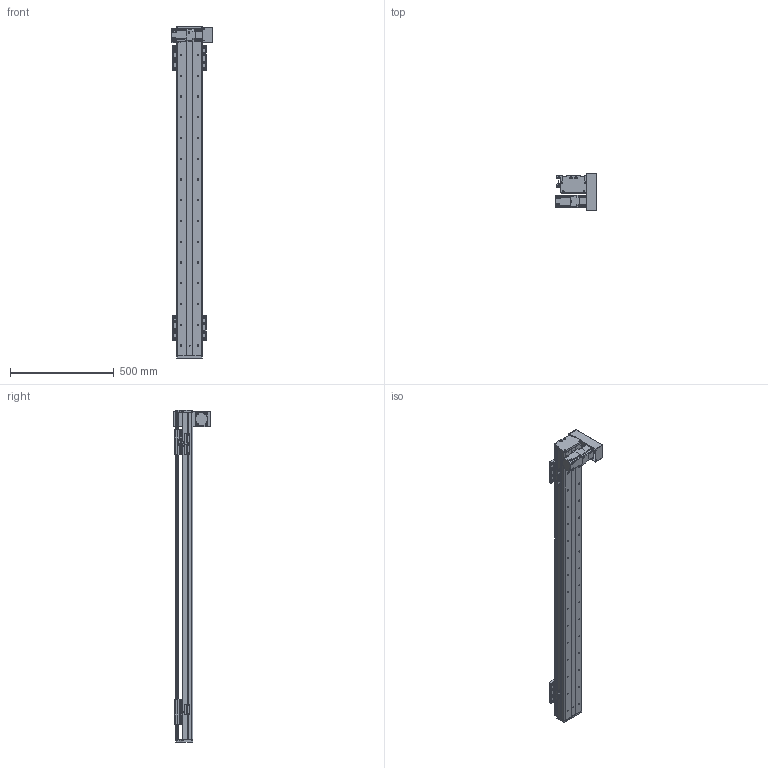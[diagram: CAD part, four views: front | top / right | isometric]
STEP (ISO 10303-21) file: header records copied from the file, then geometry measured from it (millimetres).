
FILE_DESCRIPTION(/* description */ (''),/* implementation_level */ '2;1');
FILE_NAME(/* name */ 'C:\Users\PC\Desktop\3D도면\STEP\새 폴더\DSB125-DR2G-W1300-L.stp',/* time_stamp */ '2018-06-21T14:59:46+09:00',/* author */ ('PC'),/* organization */ (''),/* preprocessor_version */ 'ST-DEVELOPER v16.5',/* originating_system */ 'Autodesk Inventor 2017',/* authorisation */ '');
FILE_SCHEMA (('AUTOMOTIVE_DESIGN { 1 0 10303 214 3 1 1 }'));
Length unit declared in the file: millimetre
Products named in the file (12): DSB125-DL2G-W1300-R_MIR; DSB125-BASE_MIR; DSB125-FRONT COVER_MIR; DSB125-REAR COVER_MIR; DSB125-UP COVER_MIR; hg-kr23__MIR; ab0601-p0401200402_MIR; 13-BELT COVER_MIR; DSR125-SENSOR DOG_MIR; pm-y65_step_MIR; SENSOR BRACKET(EE-SX674A)_MIR; DSB125-TABLE(MSB15S)_MIR
Assembly tree (16 placements, depth 2):
  DSB125-DL2G-W1300-R_MIR
    DSB125-BASE_MIR
    DSB125-FRONT COVER_MIR
    DSB125-REAR COVER_MIR
    DSB125-UP COVER_MIR
    hg-kr23__MIR
    ab0601-p0401200402_MIR
    13-BELT COVER_MIR
    DSR125-SENSOR DOG_MIR
    pm-y65_step_MIR  x3
    SENSOR BRACKET(EE-SX674A)_MIR  x3
    DSB125-TABLE(MSB15S)_MIR  x2
Bounding box: 202.1 x 182 x 1600 mm (x, y, z)
Volume: 5661080.5 mm3; surface area: 1629003.6 mm2
Topology: 17 solids, 17 shells, 1675 faces, 4540 edges, 2990 vertices
Faces by surface type: plane 903, cylinder 638, cone 122, sphere 8, torus 4
Full cylindrical faces by diameter (mm): 2.459 x20, 3.242 x16, 3.5 x6, 4 x1, 4.134 x16, 4.2 x4, 4.3 x1, 4.5 x50, 4.917 x20, 5 x22, 5.3 x1, 5.5 x4, 5.6 x8, 5.8 x4, 5.9 x8, 6 x4, 6.6 x22, 6.647 x32, 7.5 x32, 8.5 x8, 8.7 x1, 11 x22, 14 x1, 16 x2, 17 x1, 20 x1, 47 x1, 50 x3
Entity records: 36305 total; most frequent: CARTESIAN_POINT 6531, DIRECTION 6170, ORIENTED_EDGE 5506, EDGE_CURVE 2753, AXIS2_PLACEMENT_3D 2273, VERTEX_POINT 1962, EDGE_LOOP 1701, LINE 1624
